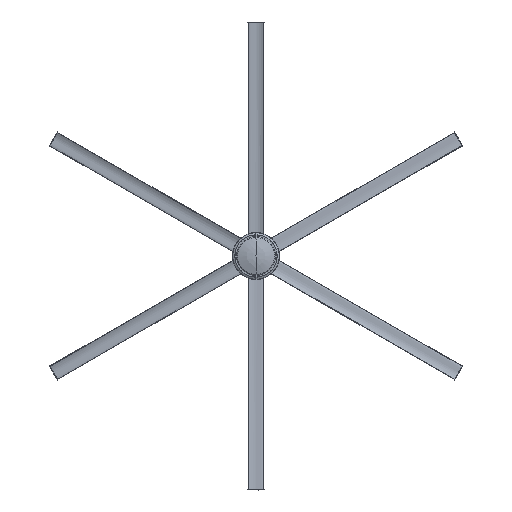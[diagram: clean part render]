
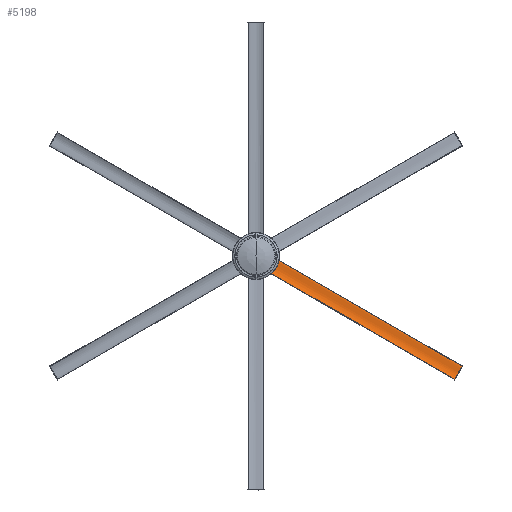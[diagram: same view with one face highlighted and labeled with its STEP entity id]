
A CAD part, top view. The second image highlights one B-rep face of the part: STEP entity #5198.
In plain terms, the highlighted free-form (B-spline) face has degree [3, 1] with [9, 2] control points.
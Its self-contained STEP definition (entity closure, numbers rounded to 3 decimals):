
#596=FACE_OUTER_BOUND('',#934,.T.);
#934=EDGE_LOOP('',(#3556,#3557,#3558,#3559));
#1298=LINE('',#7657,#1595);
#1299=LINE('',#7698,#1596);
#1595=VECTOR('',#6082,304.8);
#1596=VECTOR('',#6085,304.8);
#1892=B_SPLINE_CURVE_WITH_KNOTS('',3,(#7678,#7679,#7680,#7681,#7682,#7683,
#7684,#7685,#7686,#7687,#7688,#7689,#7690,#7691,#7692,#7693,#7694,#7695,
#7696),.UNSPECIFIED.,.F.,.F.,(4,3,3,3,3,3,4),(-79.917,-69.443,
-56.425,-41.632,-26.989,-12.388,
0.),.UNSPECIFIED.);
#1893=B_SPLINE_CURVE_WITH_KNOTS('',3,(#7699,#7700,#7701,#7702,#7703,#7704,
#7705,#7706,#7707,#7708,#7709,#7710,#7711,#7712,#7713,#7714,#7715,#7716,
#7717),.UNSPECIFIED.,.F.,.F.,(4,3,3,3,3,3,4),(-116.987,-98.852,
-77.479,-56.044,-34.389,-15.332,
0.),.UNSPECIFIED.);
#2212=VERTEX_POINT('',#7654);
#2213=VERTEX_POINT('',#7656);
#2214=VERTEX_POINT('',#7677);
#2215=VERTEX_POINT('',#7697);
#2726=EDGE_CURVE('',#2213,#2212,#1298,.T.);
#2728=EDGE_CURVE('',#2214,#2212,#1892,.T.);
#2729=EDGE_CURVE('',#2215,#2214,#1299,.T.);
#2730=EDGE_CURVE('',#2213,#2215,#1893,.T.);
#3556=ORIENTED_EDGE('',*,*,#2728,.F.);
#3557=ORIENTED_EDGE('',*,*,#2729,.F.);
#3558=ORIENTED_EDGE('',*,*,#2730,.F.);
#3559=ORIENTED_EDGE('',*,*,#2726,.T.);
#5157=B_SPLINE_SURFACE_WITH_KNOTS('',3,1,((#7659,#7660),(#7661,#7662),(#7663,
#7664),(#7665,#7666),(#7667,#7668),(#7669,#7670),(#7671,#7672),(#7673,#7674),
(#7675,#7676)),.UNSPECIFIED.,.F.,.F.,.F.,(4,1,1,1,1,1,4),(2,2),(0.,0.131,
0.294,0.479,0.662,0.845,
1.),(0.,1702.787),.UNSPECIFIED.);
#5198=ADVANCED_FACE('',(#596),#5157,.F.);
#6082=DIRECTION('',(-0.866,0.5,0.));
#6085=DIRECTION('',(-0.866,0.5,0.));
#7654=CARTESIAN_POINT('',(91.925,3.219,408.567));
#7656=CARTESIAN_POINT('',(1320.805,-706.276,408.567));
#7657=CARTESIAN_POINT('',(1320.805,-706.276,408.567));
#7659=CARTESIAN_POINT('Ctrl Pts',(43.676,-80.351,424.737));
#7660=CARTESIAN_POINT('Ctrl Pts',(1518.333,-931.744,424.737));
#7661=CARTESIAN_POINT('Ctrl Pts',(45.772,-76.72,422.542));
#7662=CARTESIAN_POINT('Ctrl Pts',(1520.429,-928.113,422.542));
#7663=CARTESIAN_POINT('Ctrl Pts',(51.161,-67.386,417.692));
#7664=CARTESIAN_POINT('Ctrl Pts',(1525.818,-918.78,417.692));
#7665=CARTESIAN_POINT('Ctrl Pts',(58.489,-54.694,413.211));
#7666=CARTESIAN_POINT('Ctrl Pts',(1533.145,-906.088,413.211));
#7667=CARTESIAN_POINT('Ctrl Pts',(64.633,-44.053,411.045));
#7668=CARTESIAN_POINT('Ctrl Pts',(1539.289,-895.447,411.045));
#7669=CARTESIAN_POINT('Ctrl Pts',(73.238,-29.149,410.444));
#7670=CARTESIAN_POINT('Ctrl Pts',(1547.894,-880.542,410.444));
#7671=CARTESIAN_POINT('Ctrl Pts',(80.671,-16.274,410.444));
#7672=CARTESIAN_POINT('Ctrl Pts',(1555.327,-867.667,410.444));
#7673=CARTESIAN_POINT('Ctrl Pts',(86.837,-5.595,411.104));
#7674=CARTESIAN_POINT('Ctrl Pts',(1561.493,-856.988,411.104));
#7675=CARTESIAN_POINT('Ctrl Pts',(91.925,3.219,408.567));
#7676=CARTESIAN_POINT('Ctrl Pts',(1566.582,-848.175,408.567));
#7677=CARTESIAN_POINT('',(43.676,-80.351,424.737));
#7678=CARTESIAN_POINT('Ctrl Pts',(43.676,-80.351,424.737));
#7679=CARTESIAN_POINT('Ctrl Pts',(45.772,-76.72,422.542));
#7680=CARTESIAN_POINT('Ctrl Pts',(48.175,-72.559,420.38));
#7681=CARTESIAN_POINT('Ctrl Pts',(50.4,-68.704,418.635));
#7682=CARTESIAN_POINT('Ctrl Pts',(53.166,-63.914,416.466));
#7683=CARTESIAN_POINT('Ctrl Pts',(55.657,-59.598,414.943));
#7684=CARTESIAN_POINT('Ctrl Pts',(57.865,-55.775,413.821));
#7685=CARTESIAN_POINT('Ctrl Pts',(60.373,-51.431,412.547));
#7686=CARTESIAN_POINT('Ctrl Pts',(62.514,-47.723,411.792));
#7687=CARTESIAN_POINT('Ctrl Pts',(65.031,-43.363,411.315));
#7688=CARTESIAN_POINT('Ctrl Pts',(67.523,-39.046,410.843));
#7689=CARTESIAN_POINT('Ctrl Pts',(70.385,-34.09,410.643));
#7690=CARTESIAN_POINT('Ctrl Pts',(73.122,-29.349,410.543));
#7691=CARTESIAN_POINT('Ctrl Pts',(75.852,-24.62,410.444));
#7692=CARTESIAN_POINT('Ctrl Pts',(78.459,-20.105,410.444));
#7693=CARTESIAN_POINT('Ctrl Pts',(81.46,-14.907,410.637));
#7694=CARTESIAN_POINT('Ctrl Pts',(84.006,-10.497,410.801));
#7695=CARTESIAN_POINT('Ctrl Pts',(86.837,-5.595,411.104));
#7696=CARTESIAN_POINT('Ctrl Pts',(91.925,3.219,408.567));
#7697=CARTESIAN_POINT('',(1272.557,-789.845,424.737));
#7698=CARTESIAN_POINT('',(1272.557,-789.845,424.737));
#7699=CARTESIAN_POINT('Ctrl Pts',(1320.805,-706.276,408.567));
#7700=CARTESIAN_POINT('Ctrl Pts',(1315.717,-715.089,411.104));
#7701=CARTESIAN_POINT('Ctrl Pts',(1312.887,-719.991,410.801));
#7702=CARTESIAN_POINT('Ctrl Pts',(1310.34,-724.402,410.637));
#7703=CARTESIAN_POINT('Ctrl Pts',(1307.339,-729.6,410.444));
#7704=CARTESIAN_POINT('Ctrl Pts',(1304.732,-734.115,410.444));
#7705=CARTESIAN_POINT('Ctrl Pts',(1302.003,-738.843,410.543));
#7706=CARTESIAN_POINT('Ctrl Pts',(1299.265,-743.585,410.643));
#7707=CARTESIAN_POINT('Ctrl Pts',(1296.404,-748.541,410.843));
#7708=CARTESIAN_POINT('Ctrl Pts',(1293.912,-752.857,411.315));
#7709=CARTESIAN_POINT('Ctrl Pts',(1291.394,-757.218,411.792));
#7710=CARTESIAN_POINT('Ctrl Pts',(1289.253,-760.926,412.547));
#7711=CARTESIAN_POINT('Ctrl Pts',(1286.745,-765.27,413.821));
#7712=CARTESIAN_POINT('Ctrl Pts',(1284.538,-769.093,414.943));
#7713=CARTESIAN_POINT('Ctrl Pts',(1282.046,-773.409,416.466));
#7714=CARTESIAN_POINT('Ctrl Pts',(1279.281,-778.199,418.635));
#7715=CARTESIAN_POINT('Ctrl Pts',(1277.055,-782.053,420.38));
#7716=CARTESIAN_POINT('Ctrl Pts',(1274.653,-786.214,422.542));
#7717=CARTESIAN_POINT('Ctrl Pts',(1272.557,-789.845,424.737));
